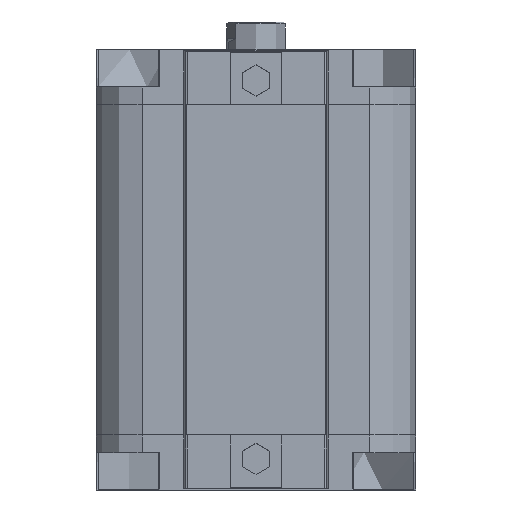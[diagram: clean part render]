
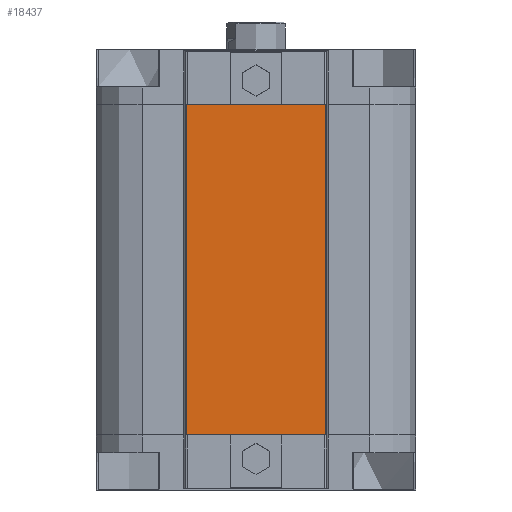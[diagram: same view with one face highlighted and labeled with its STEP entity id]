
A CAD part, front view. The second image highlights one B-rep face of the part: STEP entity #18437.
In plain terms, the highlighted planar face has unit normal (0, -1, 0).
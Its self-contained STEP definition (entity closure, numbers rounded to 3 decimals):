
#73 = VERTEX_POINT ( 'NONE', #21081 ) ;
#105 = EDGE_CURVE ( 'NONE', #17792, #23110, #5324, .T. ) ;
#208 = AXIS2_PLACEMENT_3D ( 'NONE', #13189, #13071, #12908 ) ;
#893 = LINE ( 'NONE', #6246, #1498 ) ;
#1498 = VECTOR ( 'NONE', #6225, 1000. ) ;
#3354 = CARTESIAN_POINT ( 'NONE',  ( 18.838, -47.5, -90. ) ) ;
#3402 = VERTEX_POINT ( 'NONE', #21468 ) ;
#4379 = ORIENTED_EDGE ( 'NONE', *, *, #23186, .T. ) ;
#4732 = VECTOR ( 'NONE', #20805, 1000. ) ;
#5309 = CARTESIAN_POINT ( 'NONE',  ( 0., -47.5, 0. ) ) ;
#5324 = LINE ( 'NONE', #20827, #4732 ) ;
#5331 = DIRECTION ( 'NONE',  ( -1., 0., 0. ) ) ;
#5551 = ORIENTED_EDGE ( 'NONE', *, *, #13073, .T. ) ;
#5763 = CARTESIAN_POINT ( 'NONE',  ( -18.838, -47.5, -90. ) ) ;
#6225 = DIRECTION ( 'NONE',  ( 0., 0., 1. ) ) ;
#6246 = CARTESIAN_POINT ( 'NONE',  ( 18.838, -47.5, -90. ) ) ;
#7852 = LINE ( 'NONE', #23210, #22046 ) ;
#8335 = LINE ( 'NONE', #5309, #13577 ) ;
#8380 = EDGE_CURVE ( 'NONE', #23110, #73, #7852, .T. ) ;
#12908 = DIRECTION ( 'NONE',  ( 0., 0., 1. ) ) ;
#13071 = DIRECTION ( 'NONE',  ( 0., 1., 0. ) ) ;
#13073 = EDGE_CURVE ( 'NONE', #17792, #3402, #893, .T. ) ;
#13189 = CARTESIAN_POINT ( 'NONE',  ( 0., -47.5, -90. ) ) ;
#13206 = FACE_OUTER_BOUND ( 'NONE', #14251, .T. ) ;
#13415 = PLANE ( 'NONE',  #208 ) ;
#13577 = VECTOR ( 'NONE', #5331, 1000. ) ;
#13942 = ORIENTED_EDGE ( 'NONE', *, *, #8380, .F. ) ;
#14251 = EDGE_LOOP ( 'NONE', ( #4379, #13942, #18655, #5551 ) ) ;
#17792 = VERTEX_POINT ( 'NONE', #3354 ) ;
#18437 = ADVANCED_FACE ( 'NONE', ( #13206 ), #13415, .F. ) ;
#18655 = ORIENTED_EDGE ( 'NONE', *, *, #105, .F. ) ;
#20805 = DIRECTION ( 'NONE',  ( -1., 0., 0. ) ) ;
#20827 = CARTESIAN_POINT ( 'NONE',  ( 0., -47.5, -90. ) ) ;
#21081 = CARTESIAN_POINT ( 'NONE',  ( -18.838, -47.5, 0. ) ) ;
#21468 = CARTESIAN_POINT ( 'NONE',  ( 18.838, -47.5, 0. ) ) ;
#22046 = VECTOR ( 'NONE', #23290, 1000. ) ;
#23110 = VERTEX_POINT ( 'NONE', #5763 ) ;
#23186 = EDGE_CURVE ( 'NONE', #3402, #73, #8335, .T. ) ;
#23210 = CARTESIAN_POINT ( 'NONE',  ( -18.838, -47.5, -90. ) ) ;
#23290 = DIRECTION ( 'NONE',  ( 0., 0., 1. ) ) ;
